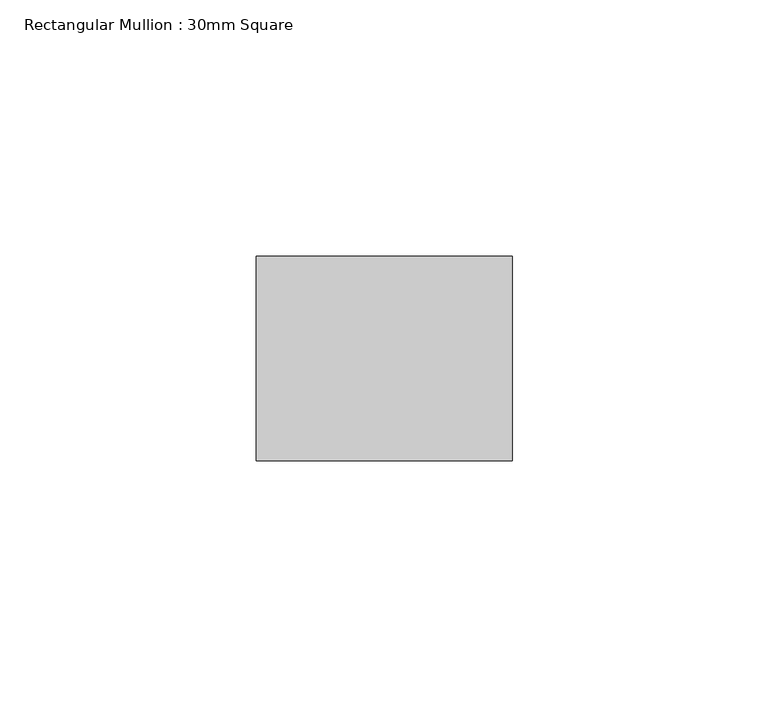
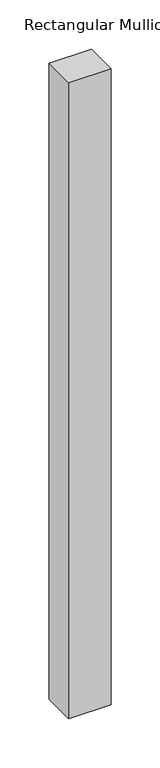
"""IFC4 building model written with IfcOpenShell, lengths in millimetres: member geometry, Rectangular Mullion : 30mm Square."""

from ifc_helpers import new_model, si_unit, frame, origin, place, context, project, spatial, polyline, outline, extrude, source, transform, mapped, element, save


def rectangular_mullion_30mm_square_ed6351fc(model_context):
    return source(origin(), model_context, "Body", "SweptSolid", [
        extrude(outline(polyline([(0.0, 20.0), (0.0, -20.0), (-50.0, -20.0), (-50.0, 20.0), (0.0, 20.0)])), frame((0.0, 0.0, -791.7316317), z_axis=(0.0, 0.0, 1.0), x_axis=(1.0, 0.0, 0.0)), (0.0, 0.0, 1.0), 791.7316317),
    ])


if __name__ == "__main__":
    model = new_model("IFC4")
    model_context = context("Model", 3, world=origin())
    ifc_project = project(units=[si_unit("LENGTHUNIT", "METRE", prefix="MILLI")], contexts=[model_context])
    site = spatial("IfcSite", under=ifc_project)
    building = spatial("IfcBuilding", under=site)
    placement = place(None, origin())
    rectangular_mullion_30mm_square_shape = rectangular_mullion_30mm_square_ed6351fc(model_context)
    element("IfcMember", 1, ObjectType="Rectangular Mullion : 30mm Square", at=placement, inside=building, context=model_context, shape_type="MappedRepresentation", body=[
        mapped(rectangular_mullion_30mm_square_shape, transform((0.0, 0.0, 0.0), x_axis=(1.0, 0.0, 0.0), y_axis=(0.0, 1.0, 0.0), z_axis=(0.0, 0.0, 1.0))),
    ])
    save(model, "model.ifc")
